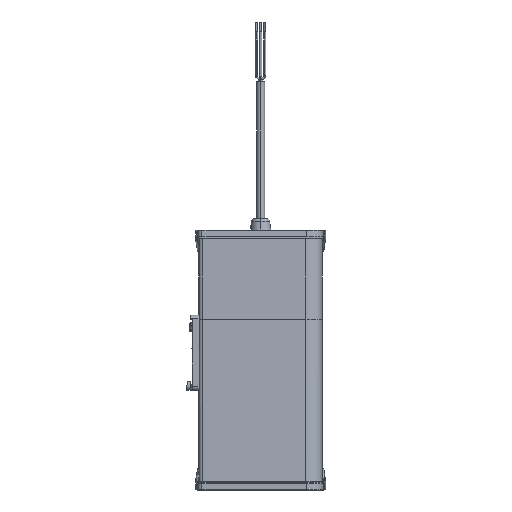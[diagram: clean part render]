
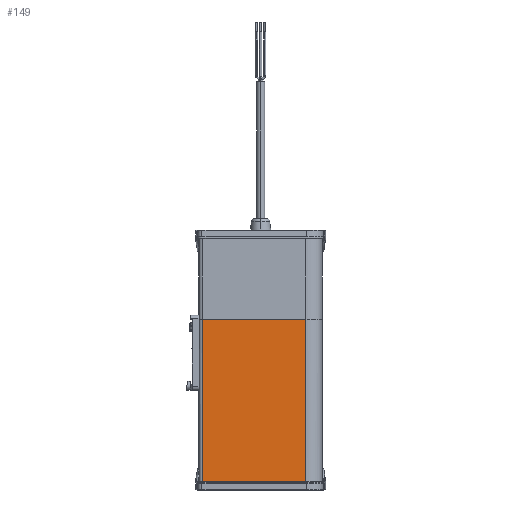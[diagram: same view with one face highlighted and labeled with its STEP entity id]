
A CAD part, left-side view. The second image highlights one B-rep face of the part: STEP entity #149.
In plain terms, the highlighted planar face has unit normal (-1, 0, 0).
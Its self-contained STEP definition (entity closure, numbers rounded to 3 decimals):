
#149=ADVANCED_FACE('',(#1335),#19050,.T.);
#1335=FACE_OUTER_BOUND('',#2521,.T.);
#2521=EDGE_LOOP('',(#3844,#3845,#3846,#3847));
#3844=ORIENTED_EDGE('',*,*,#9637,.T.);
#3845=ORIENTED_EDGE('',*,*,#9636,.T.);
#3846=ORIENTED_EDGE('',*,*,#9638,.T.);
#3847=ORIENTED_EDGE('',*,*,#9635,.T.);
#9635=EDGE_CURVE('',#16045,#16044,#14850,.T.);
#9636=EDGE_CURVE('',#16046,#16047,#14851,.T.);
#9637=EDGE_CURVE('',#16044,#16046,#14852,.T.);
#9638=EDGE_CURVE('',#16047,#16045,#14853,.T.);
#14850=B_SPLINE_CURVE_WITH_KNOTS('',1,(#21071,#21072),.UNSPECIFIED.,.F.,
 .F.,(2,2),(0.,100.),.UNSPECIFIED.);
#14851=B_SPLINE_CURVE_WITH_KNOTS('',1,(#21073,#21074),.UNSPECIFIED.,.F.,
 .F.,(2,2),(-100.,0.),.UNSPECIFIED.);
#14852=B_SPLINE_CURVE_WITH_KNOTS('',1,(#21075,#21076),.UNSPECIFIED.,.F.,
 .F.,(2,2),(-63.,0.),.UNSPECIFIED.);
#14853=B_SPLINE_CURVE_WITH_KNOTS('',1,(#21077,#21078),.UNSPECIFIED.,.F.,
 .F.,(2,2),(0.,63.),.UNSPECIFIED.);
#16044=VERTEX_POINT('',#20811);
#16045=VERTEX_POINT('',#20812);
#16046=VERTEX_POINT('',#20813);
#16047=VERTEX_POINT('',#20814);
#19050=PLANE('',#19684);
#19684=AXIS2_PLACEMENT_3D('',#20327,#19893,$);
#19893=DIRECTION('',(-1.,0.,0.));
#20327=CARTESIAN_POINT('',(-329.984,-33.808,10.));
#20811=CARTESIAN_POINT('',(-329.984,-27.508,0.));
#20812=CARTESIAN_POINT('',(-329.984,-27.508,-100.));
#20813=CARTESIAN_POINT('',(-329.984,35.492,0.));
#20814=CARTESIAN_POINT('',(-329.984,35.492,-100.));
#21071=CARTESIAN_POINT('',(-329.984,-27.508,-100.));
#21072=CARTESIAN_POINT('',(-329.984,-27.508,0.));
#21073=CARTESIAN_POINT('',(-329.984,35.492,0.));
#21074=CARTESIAN_POINT('',(-329.984,35.492,-100.));
#21075=CARTESIAN_POINT('',(-329.984,-27.508,0.));
#21076=CARTESIAN_POINT('',(-329.984,35.492,0.));
#21077=CARTESIAN_POINT('',(-329.984,35.492,-100.));
#21078=CARTESIAN_POINT('',(-329.984,-27.508,-100.));
